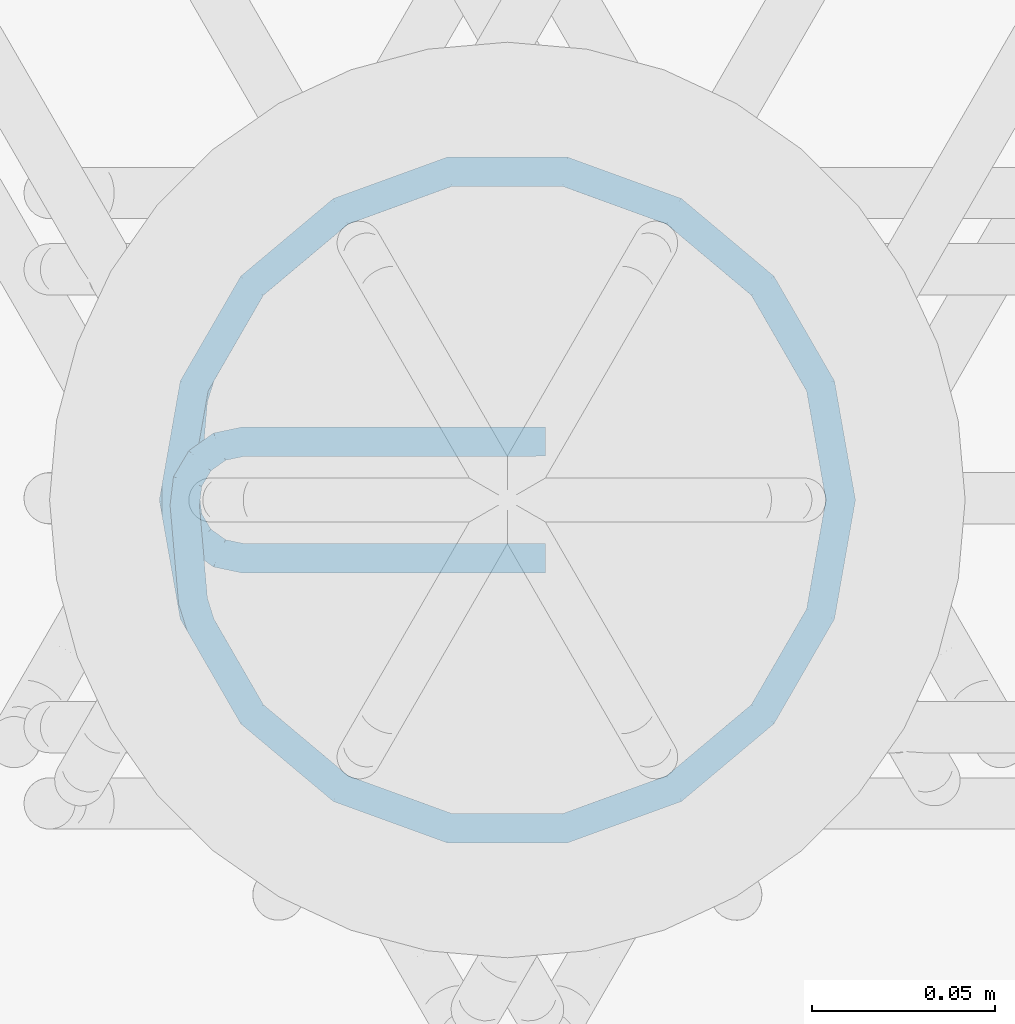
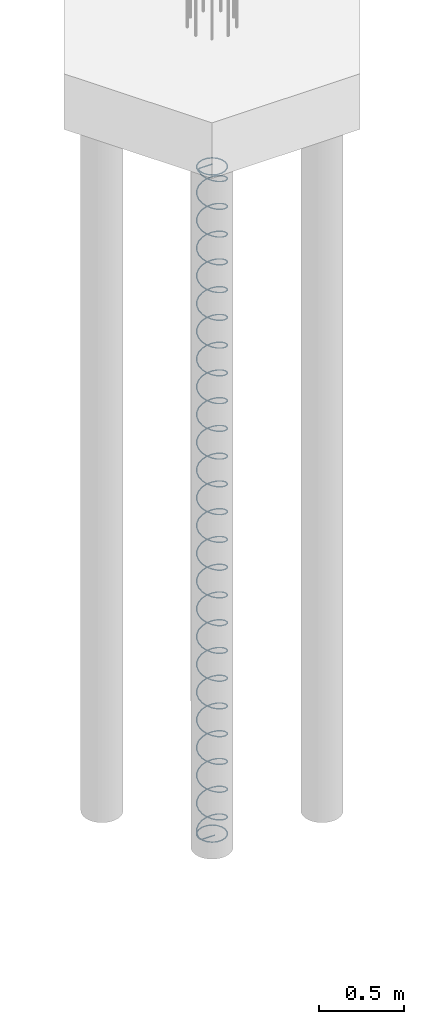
# One storey, part 6 of 23: 1 reinforcing bar.
"""IFC2X3 building model written with IfcOpenShell, lengths in metres."""

from ifc_helpers import new_model, entity, si_unit, direction, frame, origin, place, context, subcontext, project, spatial, shape, source, transform, mapped, element, save


model = new_model("IFC2X3")

# Units and contexts
model_context = context("Model", 3, precision=0.0, world=origin(), true_north=direction((0.0, 1.0)))
plan_context = context("Plan", 3, precision=0.0, world=origin(), true_north=direction((0.0, 1.0)))
body_context = subcontext(model_context, "Body", "Model", "MODEL_VIEW", scale=1.0)
ifc_project = project(units=[si_unit("LENGTHUNIT", "METRE"), si_unit("AREAUNIT", "SQUARE_METRE"), si_unit("VOLUMEUNIT", "CUBIC_METRE"), si_unit("PLANEANGLEUNIT", "RADIAN"), si_unit("THERMODYNAMICTEMPERATUREUNIT", "DEGREE_CELSIUS"), si_unit("FORCEUNIT", "NEWTON"), si_unit("MASSUNIT", "GRAM", prefix="KILO")], contexts=[model_context, plan_context])

# Site, building, storey
placement = place(None, origin())
site = spatial("IfcSite", under=ifc_project, at=placement, Name="Default Site", CompositionType="ELEMENT")
building = spatial("IfcBuilding", under=site, at=placement, Name="Default Building", CompositionType="ELEMENT")
storey_placement = place(placement, frame((0.0, 0.0, 0.0), z_axis=(1.0, 0.0, 0.0), x_axis=(0.0, 0.0, 1.0)))
storey = spatial("IfcBuildingStorey", under=building, at=storey_placement, Name="Piano 0", CompositionType="ELEMENT", Elevation=0.0)

# Reinforcing bar
shared_shape = source(origin(), body_context, None, "AdvancedSweptSolid", [
    entity("IfcSweptDiskSolid", entity("IfcCompositeCurve", [entity("IfcCompositeCurveSegment", "CONTINUOUS", True, entity("IfcPolyline", [entity("IfcCartesianPoint", [0.0, 0.0, 0.0]), entity("IfcCartesianPoint", [-0.08255, 0.0, 0.0]), entity("IfcCartesianPoint", [-0.088992, -0.001354, -1.3e-05]), entity("IfcCartesianPoint", [-0.094343, -0.005186, -4.9e-05]), entity("IfcCartesianPoint", [-0.097699, -0.010849, -0.000103]), entity("IfcCartesianPoint", [-0.09849, -0.017383, -0.000164]), entity("IfcCartesianPoint", [-0.096222, -0.043503, -0.000411]), entity("IfcCartesianPoint", [-0.094139, -0.050118, -0.000494]), entity("IfcCartesianPoint", [-0.080113, -0.074411, -0.000889]), entity("IfcCartesianPoint", [-0.055903, -0.094726, -0.001333]), entity("IfcCartesianPoint", [-0.026205, -0.105535, -0.001778]), entity("IfcCartesianPoint", [0.005399, -0.105535, -0.002222]), entity("IfcCartesianPoint", [0.035097, -0.094726, -0.002667]), entity("IfcCartesianPoint", [0.059307, -0.074411, -0.003111]), entity("IfcCartesianPoint", [0.075109, -0.047042, -0.003556]), entity("IfcCartesianPoint", [0.080597, -0.015918, -0.004]), entity("IfcCartesianPoint", [0.075109, 0.015206, -0.004444]), entity("IfcCartesianPoint", [0.059307, 0.042576, -0.004889]), entity("IfcCartesianPoint", [0.035097, 0.062891, -0.005333]), entity("IfcCartesianPoint", [0.005399, 0.0737, -0.005778]), entity("IfcCartesianPoint", [-0.026205, 0.0737, -0.006222]), entity("IfcCartesianPoint", [-0.055903, 0.062891, -0.006667]), entity("IfcCartesianPoint", [-0.080113, 0.042576, -0.007111]), entity("IfcCartesianPoint", [-0.095915, 0.015206, -0.007556]), entity("IfcCartesianPoint", [-0.100736, -0.012136, -0.007946]), entity("IfcCartesianPoint", [-0.100774, -0.019485, -0.009274]), entity("IfcCartesianPoint", [-0.095915, -0.047042, -0.019111]), entity("IfcCartesianPoint", [-0.080113, -0.074411, -0.030222]), entity("IfcCartesianPoint", [-0.055903, -0.094726, -0.041333]), entity("IfcCartesianPoint", [-0.026205, -0.105535, -0.052444]), entity("IfcCartesianPoint", [0.005399, -0.105535, -0.063556]), entity("IfcCartesianPoint", [0.035097, -0.094726, -0.074667]), entity("IfcCartesianPoint", [0.059307, -0.074411, -0.085778]), entity("IfcCartesianPoint", [0.075109, -0.047042, -0.096889]), entity("IfcCartesianPoint", [0.080597, -0.015918, -0.108]), entity("IfcCartesianPoint", [0.075109, 0.015206, -0.119111]), entity("IfcCartesianPoint", [0.059307, 0.042576, -0.130222]), entity("IfcCartesianPoint", [0.035097, 0.062891, -0.141333]), entity("IfcCartesianPoint", [0.005399, 0.0737, -0.152444]), entity("IfcCartesianPoint", [-0.026205, 0.0737, -0.163556]), entity("IfcCartesianPoint", [-0.055903, 0.062891, -0.174667]), entity("IfcCartesianPoint", [-0.080113, 0.042576, -0.185778]), entity("IfcCartesianPoint", [-0.095915, 0.015206, -0.196889]), entity("IfcCartesianPoint", [-0.101403, -0.015918, -0.208]), entity("IfcCartesianPoint", [-0.095915, -0.047042, -0.219111]), entity("IfcCartesianPoint", [-0.080113, -0.074411, -0.230222]), entity("IfcCartesianPoint", [-0.055903, -0.094726, -0.241333]), entity("IfcCartesianPoint", [-0.026205, -0.105535, -0.252444]), entity("IfcCartesianPoint", [0.005399, -0.105535, -0.263556]), entity("IfcCartesianPoint", [0.035097, -0.094726, -0.274667]), entity("IfcCartesianPoint", [0.059307, -0.074411, -0.285778]), entity("IfcCartesianPoint", [0.075109, -0.047042, -0.296889]), entity("IfcCartesianPoint", [0.080597, -0.015918, -0.308]), entity("IfcCartesianPoint", [0.075109, 0.015206, -0.319111]), entity("IfcCartesianPoint", [0.059307, 0.042576, -0.330222]), entity("IfcCartesianPoint", [0.035097, 0.062891, -0.341333]), entity("IfcCartesianPoint", [0.005399, 0.0737, -0.352444]), entity("IfcCartesianPoint", [-0.026205, 0.0737, -0.363556]), entity("IfcCartesianPoint", [-0.055903, 0.062891, -0.374667]), entity("IfcCartesianPoint", [-0.080113, 0.042576, -0.385778]), entity("IfcCartesianPoint", [-0.095915, 0.015206, -0.396889]), entity("IfcCartesianPoint", [-0.101403, -0.015918, -0.408]), entity("IfcCartesianPoint", [-0.095915, -0.047042, -0.419111]), entity("IfcCartesianPoint", [-0.080113, -0.074411, -0.430222]), entity("IfcCartesianPoint", [-0.055903, -0.094726, -0.441333]), entity("IfcCartesianPoint", [-0.026205, -0.105535, -0.452444]), entity("IfcCartesianPoint", [0.005399, -0.105535, -0.463556]), entity("IfcCartesianPoint", [0.035097, -0.094726, -0.474667]), entity("IfcCartesianPoint", [0.059307, -0.074411, -0.485778]), entity("IfcCartesianPoint", [0.075109, -0.047042, -0.496889]), entity("IfcCartesianPoint", [0.080597, -0.015918, -0.508]), entity("IfcCartesianPoint", [0.075109, 0.015206, -0.519111]), entity("IfcCartesianPoint", [0.059307, 0.042576, -0.530222]), entity("IfcCartesianPoint", [0.035097, 0.062891, -0.541333]), entity("IfcCartesianPoint", [0.005399, 0.0737, -0.552444]), entity("IfcCartesianPoint", [-0.026205, 0.0737, -0.563556]), entity("IfcCartesianPoint", [-0.055903, 0.062891, -0.574667]), entity("IfcCartesianPoint", [-0.080113, 0.042576, -0.585778]), entity("IfcCartesianPoint", [-0.095915, 0.015206, -0.596889]), entity("IfcCartesianPoint", [-0.101403, -0.015918, -0.608]), entity("IfcCartesianPoint", [-0.095915, -0.047042, -0.619111]), entity("IfcCartesianPoint", [-0.080113, -0.074411, -0.630222]), entity("IfcCartesianPoint", [-0.055903, -0.094726, -0.641333]), entity("IfcCartesianPoint", [-0.026205, -0.105535, -0.652444]), entity("IfcCartesianPoint", [0.005399, -0.105535, -0.663556]), entity("IfcCartesianPoint", [0.035097, -0.094726, -0.674667]), entity("IfcCartesianPoint", [0.059307, -0.074411, -0.685778]), entity("IfcCartesianPoint", [0.075109, -0.047042, -0.696889]), entity("IfcCartesianPoint", [0.080597, -0.015918, -0.708]), entity("IfcCartesianPoint", [0.075109, 0.015206, -0.719111]), entity("IfcCartesianPoint", [0.059307, 0.042576, -0.730222]), entity("IfcCartesianPoint", [0.035097, 0.062891, -0.741333]), entity("IfcCartesianPoint", [0.005399, 0.0737, -0.752444]), entity("IfcCartesianPoint", [-0.026205, 0.0737, -0.763556]), entity("IfcCartesianPoint", [-0.055903, 0.062891, -0.774667]), entity("IfcCartesianPoint", [-0.080113, 0.042576, -0.785778]), entity("IfcCartesianPoint", [-0.095915, 0.015206, -0.796889]), entity("IfcCartesianPoint", [-0.101403, -0.015918, -0.808]), entity("IfcCartesianPoint", [-0.095915, -0.047042, -0.819111]), entity("IfcCartesianPoint", [-0.080113, -0.074411, -0.830222]), entity("IfcCartesianPoint", [-0.055903, -0.094726, -0.841333]), entity("IfcCartesianPoint", [-0.026205, -0.105535, -0.852444]), entity("IfcCartesianPoint", [0.005399, -0.105535, -0.863556]), entity("IfcCartesianPoint", [0.035097, -0.094726, -0.874667]), entity("IfcCartesianPoint", [0.059307, -0.074411, -0.885778]), entity("IfcCartesianPoint", [0.075109, -0.047042, -0.896889]), entity("IfcCartesianPoint", [0.080597, -0.015918, -0.908]), entity("IfcCartesianPoint", [0.075109, 0.015206, -0.919111]), entity("IfcCartesianPoint", [0.059307, 0.042576, -0.930222]), entity("IfcCartesianPoint", [0.035097, 0.062891, -0.941333]), entity("IfcCartesianPoint", [0.005399, 0.0737, -0.952444]), entity("IfcCartesianPoint", [-0.026205, 0.0737, -0.963556]), entity("IfcCartesianPoint", [-0.055903, 0.062891, -0.974667]), entity("IfcCartesianPoint", [-0.080113, 0.042576, -0.985778]), entity("IfcCartesianPoint", [-0.095915, 0.015206, -0.996889]), entity("IfcCartesianPoint", [-0.101403, -0.015918, -1.008]), entity("IfcCartesianPoint", [-0.095915, -0.047042, -1.019111]), entity("IfcCartesianPoint", [-0.080113, -0.074411, -1.030222]), entity("IfcCartesianPoint", [-0.055903, -0.094726, -1.041333]), entity("IfcCartesianPoint", [-0.026205, -0.105535, -1.052444]), entity("IfcCartesianPoint", [0.005399, -0.105535, -1.063556]), entity("IfcCartesianPoint", [0.035097, -0.094726, -1.074667]), entity("IfcCartesianPoint", [0.059307, -0.074411, -1.085778]), entity("IfcCartesianPoint", [0.075109, -0.047042, -1.096889]), entity("IfcCartesianPoint", [0.080597, -0.015918, -1.108]), entity("IfcCartesianPoint", [0.075109, 0.015206, -1.119111]), entity("IfcCartesianPoint", [0.059307, 0.042576, -1.130222]), entity("IfcCartesianPoint", [0.035097, 0.062891, -1.141333]), entity("IfcCartesianPoint", [0.005399, 0.0737, -1.152444]), entity("IfcCartesianPoint", [-0.026205, 0.0737, -1.163556]), entity("IfcCartesianPoint", [-0.055903, 0.062891, -1.174667]), entity("IfcCartesianPoint", [-0.080113, 0.042576, -1.185778]), entity("IfcCartesianPoint", [-0.095915, 0.015206, -1.196889]), entity("IfcCartesianPoint", [-0.101403, -0.015918, -1.208]), entity("IfcCartesianPoint", [-0.095915, -0.047042, -1.219111]), entity("IfcCartesianPoint", [-0.080113, -0.074411, -1.230222]), entity("IfcCartesianPoint", [-0.055903, -0.094726, -1.241333]), entity("IfcCartesianPoint", [-0.026205, -0.105535, -1.252444]), entity("IfcCartesianPoint", [0.005399, -0.105535, -1.263556]), entity("IfcCartesianPoint", [0.035097, -0.094726, -1.274667]), entity("IfcCartesianPoint", [0.059307, -0.074411, -1.285778]), entity("IfcCartesianPoint", [0.075109, -0.047042, -1.296889]), entity("IfcCartesianPoint", [0.080597, -0.015918, -1.308]), entity("IfcCartesianPoint", [0.075109, 0.015206, -1.319111]), entity("IfcCartesianPoint", [0.059307, 0.042576, -1.330222]), entity("IfcCartesianPoint", [0.035097, 0.062891, -1.341333]), entity("IfcCartesianPoint", [0.005399, 0.0737, -1.352444]), entity("IfcCartesianPoint", [-0.026205, 0.0737, -1.363556]), entity("IfcCartesianPoint", [-0.055903, 0.062891, -1.374667]), entity("IfcCartesianPoint", [-0.080113, 0.042576, -1.385778]), entity("IfcCartesianPoint", [-0.095915, 0.015206, -1.396889]), entity("IfcCartesianPoint", [-0.101403, -0.015918, -1.408]), entity("IfcCartesianPoint", [-0.095915, -0.047042, -1.419111]), entity("IfcCartesianPoint", [-0.080113, -0.074411, -1.430222]), entity("IfcCartesianPoint", [-0.055903, -0.094726, -1.441333]), entity("IfcCartesianPoint", [-0.026205, -0.105535, -1.452444]), entity("IfcCartesianPoint", [0.005399, -0.105535, -1.463556]), entity("IfcCartesianPoint", [0.035097, -0.094726, -1.474667]), entity("IfcCartesianPoint", [0.059307, -0.074411, -1.485778]), entity("IfcCartesianPoint", [0.075109, -0.047042, -1.496889]), entity("IfcCartesianPoint", [0.080597, -0.015918, -1.508]), entity("IfcCartesianPoint", [0.075109, 0.015206, -1.519111]), entity("IfcCartesianPoint", [0.059307, 0.042576, -1.530222]), entity("IfcCartesianPoint", [0.035097, 0.062891, -1.541333]), entity("IfcCartesianPoint", [0.005399, 0.0737, -1.552444]), entity("IfcCartesianPoint", [-0.026205, 0.0737, -1.563556]), entity("IfcCartesianPoint", [-0.055903, 0.062891, -1.574667]), entity("IfcCartesianPoint", [-0.080113, 0.042576, -1.585778]), entity("IfcCartesianPoint", [-0.095915, 0.015206, -1.596889]), entity("IfcCartesianPoint", [-0.101403, -0.015918, -1.608]), entity("IfcCartesianPoint", [-0.095915, -0.047042, -1.619111]), entity("IfcCartesianPoint", [-0.080113, -0.074411, -1.630222]), entity("IfcCartesianPoint", [-0.055903, -0.094726, -1.641333]), entity("IfcCartesianPoint", [-0.026205, -0.105535, -1.652444]), entity("IfcCartesianPoint", [0.005399, -0.105535, -1.663556]), entity("IfcCartesianPoint", [0.035097, -0.094726, -1.674667]), entity("IfcCartesianPoint", [0.059307, -0.074411, -1.685778]), entity("IfcCartesianPoint", [0.075109, -0.047042, -1.696889]), entity("IfcCartesianPoint", [0.080597, -0.015918, -1.708]), entity("IfcCartesianPoint", [0.075109, 0.015206, -1.719111]), entity("IfcCartesianPoint", [0.059307, 0.042576, -1.730222]), entity("IfcCartesianPoint", [0.035097, 0.062891, -1.741333]), entity("IfcCartesianPoint", [0.005399, 0.0737, -1.752444]), entity("IfcCartesianPoint", [-0.026205, 0.0737, -1.763556]), entity("IfcCartesianPoint", [-0.055903, 0.062891, -1.774667]), entity("IfcCartesianPoint", [-0.080113, 0.042576, -1.785778]), entity("IfcCartesianPoint", [-0.095915, 0.015206, -1.796889]), entity("IfcCartesianPoint", [-0.101403, -0.015918, -1.808]), entity("IfcCartesianPoint", [-0.095915, -0.047042, -1.819111]), entity("IfcCartesianPoint", [-0.080113, -0.074411, -1.830222]), entity("IfcCartesianPoint", [-0.055903, -0.094726, -1.841333]), entity("IfcCartesianPoint", [-0.026205, -0.105535, -1.852444]), entity("IfcCartesianPoint", [0.005399, -0.105535, -1.863556]), entity("IfcCartesianPoint", [0.035097, -0.094726, -1.874667]), entity("IfcCartesianPoint", [0.059307, -0.074411, -1.885778]), entity("IfcCartesianPoint", [0.075109, -0.047042, -1.896889]), entity("IfcCartesianPoint", [0.080597, -0.015918, -1.908]), entity("IfcCartesianPoint", [0.075109, 0.015206, -1.919111]), entity("IfcCartesianPoint", [0.059307, 0.042576, -1.930222]), entity("IfcCartesianPoint", [0.035097, 0.062891, -1.941333]), entity("IfcCartesianPoint", [0.005399, 0.0737, -1.952444]), entity("IfcCartesianPoint", [-0.026205, 0.0737, -1.963556]), entity("IfcCartesianPoint", [-0.055903, 0.062891, -1.974667]), entity("IfcCartesianPoint", [-0.080113, 0.042576, -1.985778]), entity("IfcCartesianPoint", [-0.095915, 0.015206, -1.996889]), entity("IfcCartesianPoint", [-0.101403, -0.015918, -2.008]), entity("IfcCartesianPoint", [-0.095915, -0.047042, -2.019111]), entity("IfcCartesianPoint", [-0.080113, -0.074411, -2.030222]), entity("IfcCartesianPoint", [-0.055903, -0.094726, -2.041333]), entity("IfcCartesianPoint", [-0.026205, -0.105535, -2.052444]), entity("IfcCartesianPoint", [0.005399, -0.105535, -2.063556]), entity("IfcCartesianPoint", [0.035097, -0.094726, -2.074667]), entity("IfcCartesianPoint", [0.059307, -0.074411, -2.085778]), entity("IfcCartesianPoint", [0.075109, -0.047042, -2.096889]), entity("IfcCartesianPoint", [0.080597, -0.015918, -2.108]), entity("IfcCartesianPoint", [0.075109, 0.015206, -2.119111]), entity("IfcCartesianPoint", [0.059307, 0.042576, -2.130222]), entity("IfcCartesianPoint", [0.035097, 0.062891, -2.141333]), entity("IfcCartesianPoint", [0.005399, 0.0737, -2.152444]), entity("IfcCartesianPoint", [-0.026205, 0.0737, -2.163556]), entity("IfcCartesianPoint", [-0.055903, 0.062891, -2.174667]), entity("IfcCartesianPoint", [-0.080113, 0.042576, -2.185778]), entity("IfcCartesianPoint", [-0.095915, 0.015206, -2.196889]), entity("IfcCartesianPoint", [-0.101403, -0.015918, -2.208]), entity("IfcCartesianPoint", [-0.095915, -0.047042, -2.219111]), entity("IfcCartesianPoint", [-0.080113, -0.074411, -2.230222]), entity("IfcCartesianPoint", [-0.055903, -0.094726, -2.241333]), entity("IfcCartesianPoint", [-0.026205, -0.105535, -2.252444]), entity("IfcCartesianPoint", [0.005399, -0.105535, -2.263556]), entity("IfcCartesianPoint", [0.035097, -0.094726, -2.274667]), entity("IfcCartesianPoint", [0.059307, -0.074411, -2.285778]), entity("IfcCartesianPoint", [0.075109, -0.047042, -2.296889]), entity("IfcCartesianPoint", [0.080597, -0.015918, -2.308]), entity("IfcCartesianPoint", [0.075109, 0.015206, -2.319111]), entity("IfcCartesianPoint", [0.059307, 0.042576, -2.330222]), entity("IfcCartesianPoint", [0.035097, 0.062891, -2.341333]), entity("IfcCartesianPoint", [0.005399, 0.0737, -2.352444]), entity("IfcCartesianPoint", [-0.026205, 0.0737, -2.363556]), entity("IfcCartesianPoint", [-0.055903, 0.062891, -2.374667]), entity("IfcCartesianPoint", [-0.080113, 0.042576, -2.385778]), entity("IfcCartesianPoint", [-0.095915, 0.015206, -2.396889]), entity("IfcCartesianPoint", [-0.101403, -0.015918, -2.408]), entity("IfcCartesianPoint", [-0.095915, -0.047042, -2.419111]), entity("IfcCartesianPoint", [-0.080113, -0.074411, -2.430222]), entity("IfcCartesianPoint", [-0.055903, -0.094726, -2.441333]), entity("IfcCartesianPoint", [-0.026205, -0.105535, -2.452444]), entity("IfcCartesianPoint", [0.005399, -0.105535, -2.463556]), entity("IfcCartesianPoint", [0.035097, -0.094726, -2.474667]), entity("IfcCartesianPoint", [0.059307, -0.074411, -2.485778]), entity("IfcCartesianPoint", [0.075109, -0.047042, -2.496889]), entity("IfcCartesianPoint", [0.080597, -0.015918, -2.508]), entity("IfcCartesianPoint", [0.075109, 0.015206, -2.519111]), entity("IfcCartesianPoint", [0.059307, 0.042576, -2.530222]), entity("IfcCartesianPoint", [0.035097, 0.062891, -2.541333]), entity("IfcCartesianPoint", [0.005399, 0.0737, -2.552444]), entity("IfcCartesianPoint", [-0.026205, 0.0737, -2.563556]), entity("IfcCartesianPoint", [-0.055903, 0.062891, -2.574667]), entity("IfcCartesianPoint", [-0.080113, 0.042576, -2.585778]), entity("IfcCartesianPoint", [-0.095915, 0.015206, -2.596889]), entity("IfcCartesianPoint", [-0.101403, -0.015918, -2.608]), entity("IfcCartesianPoint", [-0.095915, -0.047042, -2.619111]), entity("IfcCartesianPoint", [-0.080113, -0.074411, -2.630222]), entity("IfcCartesianPoint", [-0.055903, -0.094726, -2.641333]), entity("IfcCartesianPoint", [-0.026205, -0.105535, -2.652444]), entity("IfcCartesianPoint", [0.005399, -0.105535, -2.663556]), entity("IfcCartesianPoint", [0.035097, -0.094726, -2.674667]), entity("IfcCartesianPoint", [0.059307, -0.074411, -2.685778]), entity("IfcCartesianPoint", [0.075109, -0.047042, -2.696889]), entity("IfcCartesianPoint", [0.080597, -0.015918, -2.708]), entity("IfcCartesianPoint", [0.075109, 0.015206, -2.719111]), entity("IfcCartesianPoint", [0.059307, 0.042576, -2.730222]), entity("IfcCartesianPoint", [0.035097, 0.062891, -2.741333]), entity("IfcCartesianPoint", [0.005399, 0.0737, -2.752444]), entity("IfcCartesianPoint", [-0.026205, 0.0737, -2.763556]), entity("IfcCartesianPoint", [-0.055903, 0.062891, -2.774667]), entity("IfcCartesianPoint", [-0.080113, 0.042576, -2.785778]), entity("IfcCartesianPoint", [-0.095915, 0.015206, -2.796889]), entity("IfcCartesianPoint", [-0.101403, -0.015918, -2.808]), entity("IfcCartesianPoint", [-0.095915, -0.047042, -2.819111]), entity("IfcCartesianPoint", [-0.080113, -0.074411, -2.830222]), entity("IfcCartesianPoint", [-0.055903, -0.094726, -2.841333]), entity("IfcCartesianPoint", [-0.026205, -0.105535, -2.852444]), entity("IfcCartesianPoint", [0.005399, -0.105535, -2.863556]), entity("IfcCartesianPoint", [0.035097, -0.094726, -2.874667]), entity("IfcCartesianPoint", [0.059307, -0.074411, -2.885778]), entity("IfcCartesianPoint", [0.075109, -0.047042, -2.896889]), entity("IfcCartesianPoint", [0.080597, -0.015918, -2.908]), entity("IfcCartesianPoint", [0.075109, 0.015206, -2.919111]), entity("IfcCartesianPoint", [0.059307, 0.042576, -2.930222]), entity("IfcCartesianPoint", [0.035097, 0.062891, -2.941333]), entity("IfcCartesianPoint", [0.005399, 0.0737, -2.952444]), entity("IfcCartesianPoint", [-0.026205, 0.0737, -2.963556]), entity("IfcCartesianPoint", [-0.055903, 0.062891, -2.974667]), entity("IfcCartesianPoint", [-0.080113, 0.042576, -2.985778]), entity("IfcCartesianPoint", [-0.095915, 0.015206, -2.996889]), entity("IfcCartesianPoint", [-0.101403, -0.015918, -3.008]), entity("IfcCartesianPoint", [-0.095915, -0.047042, -3.019111]), entity("IfcCartesianPoint", [-0.080113, -0.074411, -3.030222]), entity("IfcCartesianPoint", [-0.055903, -0.094726, -3.041333]), entity("IfcCartesianPoint", [-0.026205, -0.105535, -3.052444]), entity("IfcCartesianPoint", [0.005399, -0.105535, -3.063556]), entity("IfcCartesianPoint", [0.035097, -0.094726, -3.074667]), entity("IfcCartesianPoint", [0.059307, -0.074411, -3.085778]), entity("IfcCartesianPoint", [0.075109, -0.047042, -3.096889]), entity("IfcCartesianPoint", [0.080597, -0.015918, -3.108]), entity("IfcCartesianPoint", [0.075109, 0.015206, -3.119111]), entity("IfcCartesianPoint", [0.059307, 0.042576, -3.130222]), entity("IfcCartesianPoint", [0.035097, 0.062891, -3.141333]), entity("IfcCartesianPoint", [0.005399, 0.0737, -3.152444]), entity("IfcCartesianPoint", [-0.026205, 0.0737, -3.163556]), entity("IfcCartesianPoint", [-0.055903, 0.062891, -3.174667]), entity("IfcCartesianPoint", [-0.080113, 0.042576, -3.185778]), entity("IfcCartesianPoint", [-0.095915, 0.015206, -3.196889]), entity("IfcCartesianPoint", [-0.101403, -0.015918, -3.208]), entity("IfcCartesianPoint", [-0.095915, -0.047042, -3.219111]), entity("IfcCartesianPoint", [-0.080113, -0.074411, -3.230222]), entity("IfcCartesianPoint", [-0.055903, -0.094726, -3.241333]), entity("IfcCartesianPoint", [-0.026205, -0.105535, -3.252444]), entity("IfcCartesianPoint", [0.005399, -0.105535, -3.263556]), entity("IfcCartesianPoint", [0.035097, -0.094726, -3.274667]), entity("IfcCartesianPoint", [0.059307, -0.074411, -3.285778]), entity("IfcCartesianPoint", [0.075109, -0.047042, -3.296889]), entity("IfcCartesianPoint", [0.080597, -0.015918, -3.308]), entity("IfcCartesianPoint", [0.075109, 0.015206, -3.319111]), entity("IfcCartesianPoint", [0.059307, 0.042576, -3.330222]), entity("IfcCartesianPoint", [0.035097, 0.062891, -3.341333]), entity("IfcCartesianPoint", [0.005399, 0.0737, -3.352444]), entity("IfcCartesianPoint", [-0.026205, 0.0737, -3.363556]), entity("IfcCartesianPoint", [-0.055903, 0.062891, -3.374667]), entity("IfcCartesianPoint", [-0.080113, 0.042576, -3.385778]), entity("IfcCartesianPoint", [-0.095915, 0.015206, -3.396889]), entity("IfcCartesianPoint", [-0.101403, -0.015918, -3.408]), entity("IfcCartesianPoint", [-0.095915, -0.047042, -3.419111]), entity("IfcCartesianPoint", [-0.080113, -0.074411, -3.430222]), entity("IfcCartesianPoint", [-0.055903, -0.094726, -3.441333]), entity("IfcCartesianPoint", [-0.026205, -0.105535, -3.452444]), entity("IfcCartesianPoint", [0.005399, -0.105535, -3.463556]), entity("IfcCartesianPoint", [0.035097, -0.094726, -3.474667]), entity("IfcCartesianPoint", [0.059307, -0.074411, -3.485778]), entity("IfcCartesianPoint", [0.075109, -0.047042, -3.496889]), entity("IfcCartesianPoint", [0.080597, -0.015918, -3.508]), entity("IfcCartesianPoint", [0.075109, 0.015206, -3.519111]), entity("IfcCartesianPoint", [0.059307, 0.042576, -3.530222]), entity("IfcCartesianPoint", [0.035097, 0.062891, -3.541333]), entity("IfcCartesianPoint", [0.005399, 0.0737, -3.552444]), entity("IfcCartesianPoint", [-0.026205, 0.0737, -3.563556]), entity("IfcCartesianPoint", [-0.055903, 0.062891, -3.574667]), entity("IfcCartesianPoint", [-0.080113, 0.042576, -3.585778]), entity("IfcCartesianPoint", [-0.095915, 0.015206, -3.596889]), entity("IfcCartesianPoint", [-0.101403, -0.015918, -3.608]), entity("IfcCartesianPoint", [-0.095915, -0.047042, -3.619111]), entity("IfcCartesianPoint", [-0.080113, -0.074411, -3.630222]), entity("IfcCartesianPoint", [-0.055903, -0.094726, -3.641333]), entity("IfcCartesianPoint", [-0.026205, -0.105535, -3.652444]), entity("IfcCartesianPoint", [0.005399, -0.105535, -3.663556]), entity("IfcCartesianPoint", [0.035097, -0.094726, -3.674667]), entity("IfcCartesianPoint", [0.059307, -0.074411, -3.685778]), entity("IfcCartesianPoint", [0.075109, -0.047042, -3.696889]), entity("IfcCartesianPoint", [0.080597, -0.015918, -3.708]), entity("IfcCartesianPoint", [0.075109, 0.015206, -3.719111]), entity("IfcCartesianPoint", [0.059307, 0.042576, -3.730222]), entity("IfcCartesianPoint", [0.035097, 0.062891, -3.741333]), entity("IfcCartesianPoint", [0.005399, 0.0737, -3.752444]), entity("IfcCartesianPoint", [-0.026205, 0.0737, -3.763556]), entity("IfcCartesianPoint", [-0.055903, 0.062891, -3.774667]), entity("IfcCartesianPoint", [-0.080113, 0.042576, -3.785778]), entity("IfcCartesianPoint", [-0.095915, 0.015206, -3.796889]), entity("IfcCartesianPoint", [-0.101403, -0.015918, -3.808]), entity("IfcCartesianPoint", [-0.095915, -0.047042, -3.819111]), entity("IfcCartesianPoint", [-0.080113, -0.074411, -3.830222]), entity("IfcCartesianPoint", [-0.055903, -0.094726, -3.841333]), entity("IfcCartesianPoint", [-0.026205, -0.105535, -3.852444]), entity("IfcCartesianPoint", [0.005399, -0.105535, -3.863556]), entity("IfcCartesianPoint", [0.035097, -0.094726, -3.874667]), entity("IfcCartesianPoint", [0.059307, -0.074411, -3.885778]), entity("IfcCartesianPoint", [0.075109, -0.047042, -3.896889]), entity("IfcCartesianPoint", [0.080597, -0.015918, -3.908]), entity("IfcCartesianPoint", [0.075109, 0.015206, -3.919111]), entity("IfcCartesianPoint", [0.059307, 0.042576, -3.930222]), entity("IfcCartesianPoint", [0.035097, 0.062891, -3.941333]), entity("IfcCartesianPoint", [0.005399, 0.0737, -3.952444]), entity("IfcCartesianPoint", [-0.026205, 0.0737, -3.963556]), entity("IfcCartesianPoint", [-0.055903, 0.062891, -3.974667]), entity("IfcCartesianPoint", [-0.080113, 0.042576, -3.985778]), entity("IfcCartesianPoint", [-0.095915, 0.015206, -3.996889]), entity("IfcCartesianPoint", [-0.101403, -0.015918, -4.008]), entity("IfcCartesianPoint", [-0.095915, -0.047042, -4.019111]), entity("IfcCartesianPoint", [-0.080113, -0.074411, -4.030222]), entity("IfcCartesianPoint", [-0.055903, -0.094726, -4.041333]), entity("IfcCartesianPoint", [-0.026205, -0.105535, -4.052444]), entity("IfcCartesianPoint", [0.005399, -0.105535, -4.063556]), entity("IfcCartesianPoint", [0.035097, -0.094726, -4.074667]), entity("IfcCartesianPoint", [0.059307, -0.074411, -4.085778]), entity("IfcCartesianPoint", [0.075109, -0.047042, -4.096889]), entity("IfcCartesianPoint", [0.080597, -0.015918, -4.108]), entity("IfcCartesianPoint", [0.075109, 0.015206, -4.119111]), entity("IfcCartesianPoint", [0.059307, 0.042576, -4.130222]), entity("IfcCartesianPoint", [0.035097, 0.062891, -4.141333]), entity("IfcCartesianPoint", [0.005399, 0.0737, -4.152444]), entity("IfcCartesianPoint", [-0.026205, 0.0737, -4.163556]), entity("IfcCartesianPoint", [-0.055903, 0.062891, -4.174667]), entity("IfcCartesianPoint", [-0.080113, 0.042576, -4.185778]), entity("IfcCartesianPoint", [-0.095915, 0.015206, -4.196889]), entity("IfcCartesianPoint", [-0.101403, -0.015918, -4.208]), entity("IfcCartesianPoint", [-0.095915, -0.047042, -4.219111]), entity("IfcCartesianPoint", [-0.080113, -0.074411, -4.230222]), entity("IfcCartesianPoint", [-0.055903, -0.094726, -4.241333]), entity("IfcCartesianPoint", [-0.026205, -0.105535, -4.252444]), entity("IfcCartesianPoint", [0.005399, -0.105535, -4.263556]), entity("IfcCartesianPoint", [0.035097, -0.094726, -4.274667]), entity("IfcCartesianPoint", [0.059307, -0.074411, -4.285778]), entity("IfcCartesianPoint", [0.075109, -0.047042, -4.296889]), entity("IfcCartesianPoint", [0.080597, -0.015918, -4.308]), entity("IfcCartesianPoint", [0.075109, 0.015206, -4.319111]), entity("IfcCartesianPoint", [0.059307, 0.042576, -4.330222]), entity("IfcCartesianPoint", [0.035097, 0.062891, -4.341333]), entity("IfcCartesianPoint", [0.005399, 0.0737, -4.352444]), entity("IfcCartesianPoint", [-0.026205, 0.0737, -4.363556]), entity("IfcCartesianPoint", [-0.055903, 0.062891, -4.374667]), entity("IfcCartesianPoint", [-0.080113, 0.042576, -4.385778]), entity("IfcCartesianPoint", [-0.095915, 0.015206, -4.396889]), entity("IfcCartesianPoint", [-0.101403, -0.015918, -4.408]), entity("IfcCartesianPoint", [-0.095915, -0.047042, -4.419111]), entity("IfcCartesianPoint", [-0.080113, -0.074411, -4.430222]), entity("IfcCartesianPoint", [-0.055903, -0.094726, -4.441333]), entity("IfcCartesianPoint", [-0.026205, -0.105535, -4.452444]), entity("IfcCartesianPoint", [0.005399, -0.105535, -4.463556]), entity("IfcCartesianPoint", [0.035097, -0.094726, -4.474667]), entity("IfcCartesianPoint", [0.059307, -0.074411, -4.485778]), entity("IfcCartesianPoint", [0.075109, -0.047042, -4.496889]), entity("IfcCartesianPoint", [0.080597, -0.015918, -4.508]), entity("IfcCartesianPoint", [0.075109, 0.015206, -4.519111]), entity("IfcCartesianPoint", [0.059307, 0.042576, -4.530222]), entity("IfcCartesianPoint", [0.035097, 0.062891, -4.541333]), entity("IfcCartesianPoint", [0.005399, 0.0737, -4.552444]), entity("IfcCartesianPoint", [-0.026205, 0.0737, -4.563556]), entity("IfcCartesianPoint", [-0.055903, 0.062891, -4.574667]), entity("IfcCartesianPoint", [-0.080113, 0.042576, -4.585778]), entity("IfcCartesianPoint", [-0.095915, 0.015206, -4.596889]), entity("IfcCartesianPoint", [-0.101403, -0.015918, -4.608]), entity("IfcCartesianPoint", [-0.095915, -0.047042, -4.619111]), entity("IfcCartesianPoint", [-0.080113, -0.074411, -4.630222]), entity("IfcCartesianPoint", [-0.055903, -0.094726, -4.641333]), entity("IfcCartesianPoint", [-0.026205, -0.105535, -4.652444]), entity("IfcCartesianPoint", [0.005399, -0.105535, -4.663556]), entity("IfcCartesianPoint", [0.035097, -0.094726, -4.674667]), entity("IfcCartesianPoint", [0.059307, -0.074411, -4.685778]), entity("IfcCartesianPoint", [0.075109, -0.047042, -4.696889]), entity("IfcCartesianPoint", [0.080597, -0.015918, -4.708]), entity("IfcCartesianPoint", [0.075109, 0.015206, -4.719111]), entity("IfcCartesianPoint", [0.059307, 0.042576, -4.730222]), entity("IfcCartesianPoint", [0.035097, 0.062891, -4.741333]), entity("IfcCartesianPoint", [0.005399, 0.0737, -4.752444]), entity("IfcCartesianPoint", [-0.026205, 0.0737, -4.763556]), entity("IfcCartesianPoint", [-0.055903, 0.062891, -4.774667]), entity("IfcCartesianPoint", [-0.080113, 0.042576, -4.785778]), entity("IfcCartesianPoint", [-0.095915, 0.015206, -4.796889]), entity("IfcCartesianPoint", [-0.100774, -0.01235, -4.806726]), entity("IfcCartesianPoint", [-0.100736, -0.019699, -4.808054]), entity("IfcCartesianPoint", [-0.095915, -0.047042, -4.808444]), entity("IfcCartesianPoint", [-0.080113, -0.074411, -4.808889]), entity("IfcCartesianPoint", [-0.055903, -0.094726, -4.809333]), entity("IfcCartesianPoint", [-0.026205, -0.105535, -4.809778]), entity("IfcCartesianPoint", [0.005399, -0.105535, -4.810222]), entity("IfcCartesianPoint", [0.035097, -0.094726, -4.810667]), entity("IfcCartesianPoint", [0.059307, -0.074411, -4.811111]), entity("IfcCartesianPoint", [0.075109, -0.047042, -4.811556]), entity("IfcCartesianPoint", [0.080597, -0.015918, -4.812]), entity("IfcCartesianPoint", [0.075109, 0.015206, -4.812444]), entity("IfcCartesianPoint", [0.059307, 0.042576, -4.812889]), entity("IfcCartesianPoint", [0.035097, 0.062891, -4.813333]), entity("IfcCartesianPoint", [0.005399, 0.0737, -4.813778]), entity("IfcCartesianPoint", [-0.026205, 0.0737, -4.814222]), entity("IfcCartesianPoint", [-0.055903, 0.062891, -4.814667]), entity("IfcCartesianPoint", [-0.080113, 0.042576, -4.815111]), entity("IfcCartesianPoint", [-0.094139, 0.018282, -4.815506]), entity("IfcCartesianPoint", [-0.096222, 0.011667, -4.815589]), entity("IfcCartesianPoint", [-0.09849, -0.014452, -4.815836]), entity("IfcCartesianPoint", [-0.097699, -0.020986, -4.815897]), entity("IfcCartesianPoint", [-0.094343, -0.026649, -4.815951]), entity("IfcCartesianPoint", [-0.088992, -0.030481, -4.815987]), entity("IfcCartesianPoint", [-0.08255, -0.031835, -4.816]), entity("IfcCartesianPoint", [0.0, -0.031835, -4.816])]))], False), 0.004, 0.0, 0.0),
])
element("IfcReinforcingBar", 1, at=placement, inside=storey, Name="Arm Staffa; Palo:1 Filo:3 [Piano:0]", BarLength=15.823294, BarRole="SHEAR", BarSurface="TEXTURED", NominalDiameter=0.008, shapes=[
    shape(body_context, None, "MappedRepresentation", [mapped(shared_shape, transform((7.635403, -0.634082, -0.492)))]),
])

save(model, "model.ifc")
